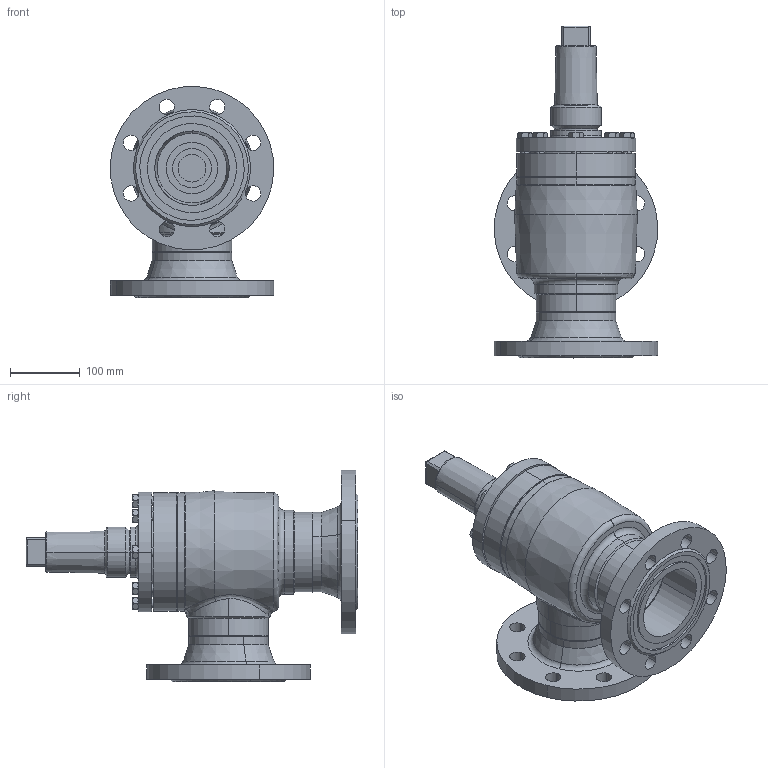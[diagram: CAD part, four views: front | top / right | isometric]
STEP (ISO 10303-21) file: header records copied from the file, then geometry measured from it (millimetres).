
FILE_DESCRIPTION (( 'STEP AP214' ), '1' );
FILE_NAME ('HRAR22420D19-DN100_DIN-FL-N_PS40.STEP', '2007-01-08T07:16:03', ( 'Herr Grams' ), ( 'AWP GmbH' ), 'SwSTEP 2.0', 'SolidWorks 2002296', '' );
FILE_SCHEMA (( 'AUTOMOTIVE_DESIGN' ));
Length unit declared in the file: millimetre
Products named in the file (12): HRAR22420D19-DN100_DIN-FL-N_PS40; Kappe16402_DN080-100_Standard; Deckel26300E19-DN100_Standard; Gehäuse-kpl16420-DN100_DIN_PS40_Standard; Gehäuse-kpl16400-DN100_R1_Standard; bead-DN100-1_Standard; Gehäuse16400-DN100_Standard; Kopfstück16300-DN100_Standard; bead-DN100-4_Standard; bead-DN100-3_Standard; Flansch-DIN-Nut_PS40_DIN-Flansch-DN100_PS40-Nut; Sechskantschraube-DIN933_M12x 30
Assembly tree (19 placements, depth 4):
  HRAR22420D19-DN100_DIN-FL-N_PS40
    Sechskantschraube-DIN933_M12x 30  x8
    Deckel26300E19-DN100_Standard
    Gehäuse-kpl16420-DN100_DIN_PS40_Standard
      bead-DN100-4_Standard
      Gehäuse-kpl16400-DN100_R1_Standard
        Kopfstück16300-DN100_Standard
        bead-DN100-1_Standard
        Gehäuse16400-DN100_Standard
      bead-DN100-3_Standard
      Flansch-DIN-Nut_PS40_DIN-Flansch-DN100_PS40-Nut  x2
    Kappe16402_DN080-100_Standard
Bounding box: 234.78 x 477 x 303.39 mm (x, y, z)
Volume: 4479272.1 mm3; surface area: 713234.4 mm2
Topology: 17 solids, 17 shells, 443 faces, 994 edges, 601 vertices
Faces by surface type: cylinder 147, cone 142, plane 120, bspline 18, torus 16
Entity records: 19952 total; most frequent: CARTESIAN_POINT 13834, DIRECTION 1181, ORIENTED_EDGE 1052, EDGE_CURVE 526, AXIS2_PLACEMENT_3D 516, VERTEX_POINT 327, EDGE_LOOP 289, CIRCLE 280
